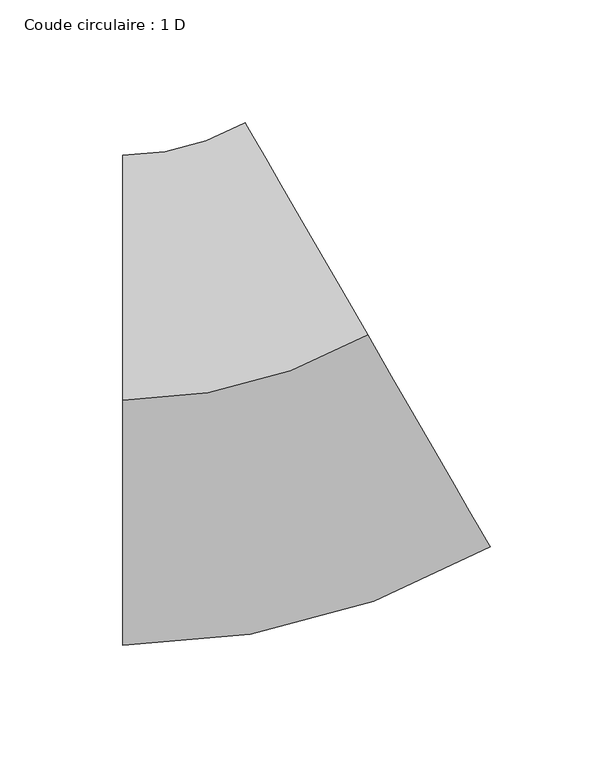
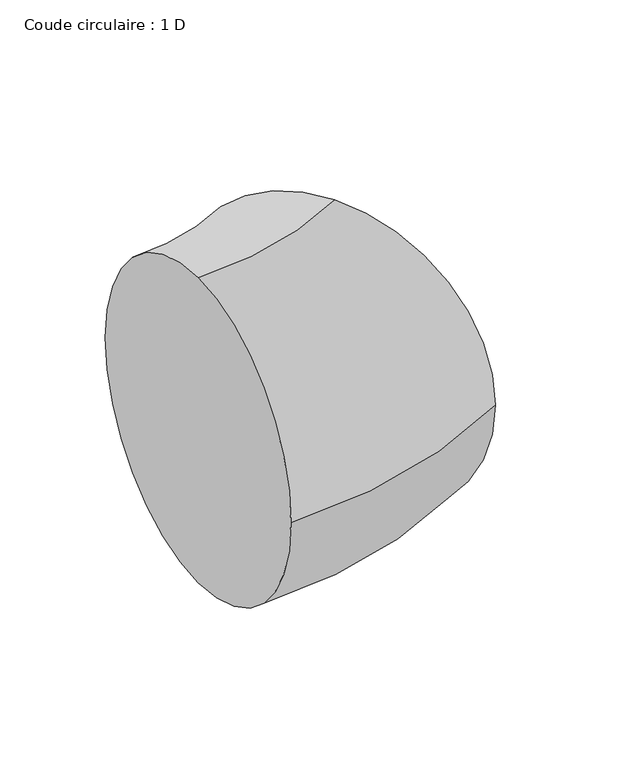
"""IFC4 building model written with IfcOpenShell, lengths in millimetres: duct fitting geometry, Coude circulaire : 1 D."""

from ifc_helpers import new_model, si_unit, point, frame, origin, place, context, project, spatial, circle_curve, ellipse_curve, trimmed, source, transform, mapped, element, save
from ifc_brep_helpers import plane_surface, revolved_surface, advanced_brep


def coude_circulaire_1_d_01b5a2fb(model_context):
    return source(origin(), model_context, "Body", "AdvancedBrep", [
        advanced_brep(
        [(-53.5898385, 0.0, 100.0), (-53.5898385, 100.0, 0.0), (-53.5898385, 0.0, -100.0), (-53.5898385, -100.0, 0.0), (46.4101615, 26.7949192, 100.0), (96.4101615, -59.8076211, 0.0), (46.4101615, 26.7949192, -100.0), (-3.5898385, 113.3974596, 0.0)],
        [
            (0, 1, circle_curve(frame((-53.5898385, 0.0, 0.0), z_axis=(-1.0, 0.0, 0.0), x_axis=(0.0, 1.0, 0.0)), 100.0)),
            (1, 2, circle_curve(frame((-53.5898385, 0.0, 0.0), z_axis=(-1.0, 0.0, 0.0), x_axis=(0.0, 1.0, 0.0)), 100.0)),
            (2, 3, circle_curve(frame((-53.5898385, 0.0, 0.0), z_axis=(-1.0, 0.0, 0.0), x_axis=(0.0, 1.0, 0.0)), 100.0)),
            (3, 0, circle_curve(frame((-53.5898385, 0.0, 0.0), z_axis=(-1.0, 0.0, 0.0), x_axis=(0.0, 1.0, 0.0)), 100.0)),
            (4, 5, circle_curve(frame((46.4101615, 26.7949192, 0.0), z_axis=(0.8660254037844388, 0.49999999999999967, 0.0), x_axis=(-0.49999999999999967, 0.8660254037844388, 0.0)), 100.0)),
            (5, 6, circle_curve(frame((46.4101615, 26.7949192, 0.0), z_axis=(0.8660254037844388, 0.49999999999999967, 0.0), x_axis=(-0.49999999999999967, 0.8660254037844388, 0.0)), 100.0)),
            (6, 7, circle_curve(frame((46.4101615, 26.7949192, 0.0), z_axis=(0.8660254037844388, 0.49999999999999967, 0.0), x_axis=(-0.49999999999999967, 0.8660254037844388, 0.0)), 100.0)),
            (7, 4, circle_curve(frame((46.4101615, 26.7949192, 0.0), z_axis=(0.8660254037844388, 0.49999999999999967, 0.0), x_axis=(-0.49999999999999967, 0.8660254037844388, 0.0)), 100.0)),
            (7, 1, circle_curve(frame((-53.5898385, 200.0, 0.0), z_axis=(0.0, 0.0, -1.0), x_axis=(0.0, -1.0, 0.0)), 100.0)),
            (0, 4, circle_curve(frame((-53.5898385, 200.0, 100.0), z_axis=(0.0, 0.0, 1.0), x_axis=(0.0, -1.0, 0.0)), 200.0)),
            (6, 2, circle_curve(frame((-53.5898385, 200.0, -100.0), z_axis=(0.0, 0.0, -1.0), x_axis=(0.0, -1.0, 0.0)), 200.0)),
            (5, 3, circle_curve(frame((-53.5898385, 200.0, 0.0), z_axis=(0.0, 0.0, -1.0), x_axis=(0.0, -1.0, 0.0)), 300.0)),
        ],
        [
            plane_surface(frame((-53.5898385, 0.0, 0.0), z_axis=(-1.0, 0.0, 0.0), x_axis=(0.0, 0.0, 1.0))),
            plane_surface(frame((46.4101615, 26.7949192, 0.0), z_axis=(0.8660254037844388, 0.49999999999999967, 0.0), x_axis=(0.0, 0.0, 1.0))),
            revolved_surface(trimmed(ellipse_curve(frame((-53.5898385, 0.0, 0.0), z_axis=(-1.0, 0.0, 0.0), x_axis=(0.0, 1.0, 0.0)), 100.0, 100.0), [point((-53.5898385, 0.0, 100.0))], [point((-53.5898385, 100.0, 0.0))], True, "CARTESIAN"), (-53.5898385, 200.0, 0.0), (0.0, 0.0, 1.0)),
            revolved_surface(trimmed(ellipse_curve(frame((-53.5898385, 0.0, 0.0), z_axis=(-1.0, 0.0, 0.0), x_axis=(0.0, 1.0, 0.0)), 100.0, 100.0), [point((-53.5898385, 100.0, 0.0))], [point((-53.5898385, 0.0, -100.0))], True, "CARTESIAN"), (-53.5898385, 200.0, 0.0), (0.0, 0.0, 1.0)),
            revolved_surface(trimmed(ellipse_curve(frame((-53.5898385, 0.0, 0.0), z_axis=(-1.0, 0.0, 0.0), x_axis=(0.0, 1.0, 0.0)), 100.0, 100.0), [point((-53.5898385, 0.0, -100.0))], [point((-53.5898385, -100.0, 0.0))], True, "CARTESIAN"), (-53.5898385, 200.0, 0.0), (0.0, 0.0, 1.0)),
            revolved_surface(trimmed(ellipse_curve(frame((-53.5898385, 0.0, 0.0), z_axis=(-1.0, 0.0, 0.0), x_axis=(0.0, 1.0, 0.0)), 100.0, 100.0), [point((-53.5898385, -100.0, 0.0))], [point((-53.5898385, 0.0, 100.0))], True, "CARTESIAN"), (-53.5898385, 200.0, 0.0), (0.0, 0.0, 1.0)),
        ],
        [
            (0, [[1, 2, 3, 4]]),
            (1, [[5, 6, 7, 8]]),
            (2, [[9, -1, 10, -8]]),
            (3, [[11, -2, -9, -7]]),
            (4, [[12, -3, -11, -6]]),
            (5, [[-10, -4, -12, -5]]),
        ],
    ),
    ])


if __name__ == "__main__":
    model = new_model("IFC4")
    model_context = context("Model", 3, world=origin())
    ifc_project = project(units=[si_unit("LENGTHUNIT", "METRE", prefix="MILLI")], contexts=[model_context])
    site = spatial("IfcSite", under=ifc_project)
    building = spatial("IfcBuilding", under=site)
    placement = place(None, origin())
    coude_circulaire_1_d_shape = coude_circulaire_1_d_01b5a2fb(model_context)
    element("IfcDuctFitting", 1, ObjectType="Coude circulaire : 1 D", at=placement, inside=building, context=model_context, shape_type="MappedRepresentation", body=[
        mapped(coude_circulaire_1_d_shape, transform((0.0, 0.0, 0.0), x_axis=(1.0, 0.0, 0.0), y_axis=(0.0, 1.0, 0.0), z_axis=(0.0, 0.0, 1.0))),
    ])
    save(model, "model.ifc")
